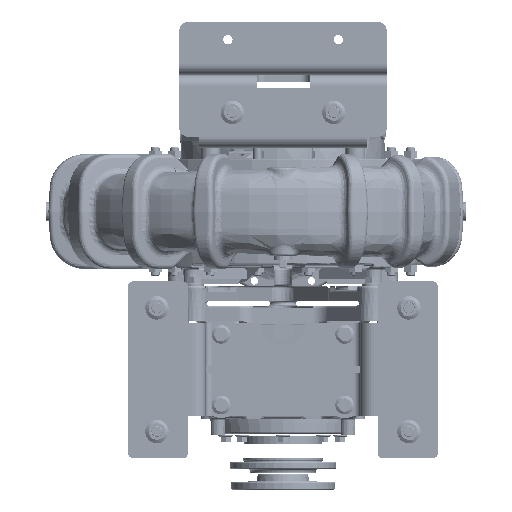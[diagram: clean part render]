
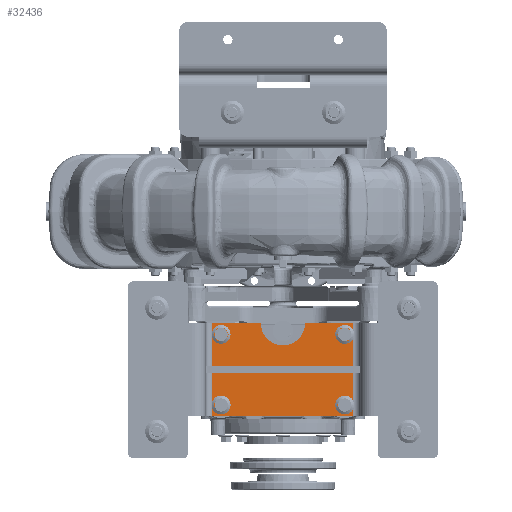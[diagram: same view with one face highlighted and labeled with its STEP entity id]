
A CAD part, front view. The second image highlights one B-rep face of the part: STEP entity #32436.
In plain terms, the highlighted planar face has unit normal (0, -1, 0).
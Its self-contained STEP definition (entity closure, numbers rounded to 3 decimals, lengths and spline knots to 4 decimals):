
#417 = CARTESIAN_POINT ( 'NONE',  ( 3.5, -5.5, -5.63 ) ) ;
#2296 = CIRCLE ( 'NONE', #180487, 0.28 ) ;
#4404 = EDGE_CURVE ( 'NONE', #22713, #160573, #127840, .T. ) ;
#6061 = VERTEX_POINT ( 'NONE', #152544 ) ;
#7007 = CARTESIAN_POINT ( 'NONE',  ( 0., -5.5, -1.005 ) ) ;
#7439 = EDGE_CURVE ( 'NONE', #87144, #57784, #20271, .T. ) ;
#8953 = VERTEX_POINT ( 'NONE', #180697 ) ;
#14128 = ORIENTED_EDGE ( 'NONE', *, *, #79163, .F. ) ;
#14228 = ORIENTED_EDGE ( 'NONE', *, *, #163461, .F. ) ;
#15272 = VERTEX_POINT ( 'NONE', #29730 ) ;
#18949 = DIRECTION ( 'NONE',  ( 0., 0., -1. ) ) ;
#20271 = LINE ( 'NONE', #76005, #79507 ) ;
#22713 = VERTEX_POINT ( 'NONE', #83203 ) ;
#25576 = DIRECTION ( 'NONE',  ( 0., 1., 0. ) ) ;
#29730 = CARTESIAN_POINT ( 'NONE',  ( 3.995, -5.5, -6.255 ) ) ;
#29886 = DIRECTION ( 'NONE',  ( 0., -1., 0. ) ) ;
#30065 = DIRECTION ( 'NONE',  ( 0., -1., 0. ) ) ;
#31226 = CARTESIAN_POINT ( 'NONE',  ( 3.5, -5.5, -1.91 ) ) ;
#31708 = DIRECTION ( 'NONE',  ( 0., -1., 0. ) ) ;
#32436 = ADVANCED_FACE ( 'NONE', ( #57170, #202392, #198964, #39742, #111729 ), #182658, .F. ) ;
#32593 = AXIS2_PLACEMENT_3D ( 'NONE', #52945, #123809, #199317 ) ;
#34644 = CARTESIAN_POINT ( 'NONE',  ( 3.995, -5.5, -1.005 ) ) ;
#34791 = ORIENTED_EDGE ( 'NONE', *, *, #62552, .F. ) ;
#36926 = DIRECTION ( 'NONE',  ( 0., 0., -1. ) ) ;
#37096 = EDGE_CURVE ( 'NONE', #186460, #105479, #228687, .T. ) ;
#39742 = FACE_BOUND ( 'NONE', #164297, .T. ) ;
#41719 = CARTESIAN_POINT ( 'NONE',  ( 1.25, -5.5, -1.005 ) ) ;
#43159 = CARTESIAN_POINT ( 'NONE',  ( 0., -5.5, -3.63 ) ) ;
#43432 = CIRCLE ( 'NONE', #88028, 0.28 ) ;
#44125 = CARTESIAN_POINT ( 'NONE',  ( -3.5, -5.5, -1.63 ) ) ;
#47644 = EDGE_CURVE ( 'NONE', #8953, #81318, #58916, .T. ) ;
#50778 = CARTESIAN_POINT ( 'NONE',  ( 3.5, -5.5, -1.63 ) ) ;
#52022 = CARTESIAN_POINT ( 'NONE',  ( 3.5, -5.5, -5.91 ) ) ;
#52945 = CARTESIAN_POINT ( 'NONE',  ( 3.5, -5.5, -5.63 ) ) ;
#55705 = ORIENTED_EDGE ( 'NONE', *, *, #80776, .F. ) ;
#56860 = EDGE_LOOP ( 'NONE', ( #14228, #57065 ) ) ;
#57065 = ORIENTED_EDGE ( 'NONE', *, *, #4404, .F. ) ;
#57170 = FACE_OUTER_BOUND ( 'NONE', #192894, .T. ) ;
#57784 = VERTEX_POINT ( 'NONE', #225621 ) ;
#58916 = CIRCLE ( 'NONE', #147980, 0.28 ) ;
#60172 = VECTOR ( 'NONE', #191077, 39.3701 ) ;
#62552 = EDGE_CURVE ( 'NONE', #211370, #108269, #95348, .T. ) ;
#62741 = ORIENTED_EDGE ( 'NONE', *, *, #37096, .F. ) ;
#67917 = CARTESIAN_POINT ( 'NONE',  ( -3.5, -5.5, -5.91 ) ) ;
#70231 = ORIENTED_EDGE ( 'NONE', *, *, #85571, .T. ) ;
#72264 = AXIS2_PLACEMENT_3D ( 'NONE', #417, #173642, #228266 ) ;
#75039 = CARTESIAN_POINT ( 'NONE',  ( -3.995, -5.5, -6.255 ) ) ;
#75363 = DIRECTION ( 'NONE',  ( 0., 0., -1. ) ) ;
#76005 = CARTESIAN_POINT ( 'NONE',  ( 1.25, -5.5, -1.005 ) ) ;
#78956 = DIRECTION ( 'NONE',  ( 0., 0., -1. ) ) ;
#78999 = EDGE_LOOP ( 'NONE', ( #108815, #212540 ) ) ;
#79163 = EDGE_CURVE ( 'NONE', #15272, #211370, #192221, .T. ) ;
#79507 = VECTOR ( 'NONE', #178358, 39.3701 ) ;
#80776 = EDGE_CURVE ( 'NONE', #171492, #88931, #156851, .T. ) ;
#81318 = VERTEX_POINT ( 'NONE', #140259 ) ;
#83203 = CARTESIAN_POINT ( 'NONE',  ( 3.5, -5.5, -5.35 ) ) ;
#83382 = ORIENTED_EDGE ( 'NONE', *, *, #127874, .F. ) ;
#84447 = DIRECTION ( 'NONE',  ( 0., 0., -1. ) ) ;
#85571 = EDGE_CURVE ( 'NONE', #87144, #6061, #209488, .T. ) ;
#87144 = VERTEX_POINT ( 'NONE', #41719 ) ;
#88028 = AXIS2_PLACEMENT_3D ( 'NONE', #44125, #153299, #78956 ) ;
#88931 = VERTEX_POINT ( 'NONE', #181897 ) ;
#90379 = EDGE_LOOP ( 'NONE', ( #55705, #148550 ) ) ;
#91993 = CIRCLE ( 'NONE', #32593, 0.28 ) ;
#94310 = DIRECTION ( 'NONE',  ( 0., 0., 1. ) ) ;
#95348 = LINE ( 'NONE', #110497, #175508 ) ;
#99796 = DIRECTION ( 'NONE',  ( 0., 0., -1. ) ) ;
#104946 = AXIS2_PLACEMENT_3D ( 'NONE', #109081, #198597, #75363 ) ;
#105479 = VERTEX_POINT ( 'NONE', #31226 ) ;
#108269 = VERTEX_POINT ( 'NONE', #221168 ) ;
#108815 = ORIENTED_EDGE ( 'NONE', *, *, #47644, .F. ) ;
#109081 = CARTESIAN_POINT ( 'NONE',  ( -3.5, -5.5, -5.63 ) ) ;
#110497 = CARTESIAN_POINT ( 'NONE',  ( -3.995, -5.5, -6.255 ) ) ;
#111729 = FACE_BOUND ( 'NONE', #56860, .T. ) ;
#117116 = EDGE_CURVE ( 'NONE', #57784, #15272, #193880, .T. ) ;
#117909 = ORIENTED_EDGE ( 'NONE', *, *, #117116, .F. ) ;
#120138 = CARTESIAN_POINT ( 'NONE',  ( 3.995, -5.5, -6.255 ) ) ;
#121171 = DIRECTION ( 'NONE',  ( 0., 0., -1. ) ) ;
#123809 = DIRECTION ( 'NONE',  ( 0., -1., 0. ) ) ;
#127070 = CARTESIAN_POINT ( 'NONE',  ( 3.5, -5.5, -1.35 ) ) ;
#127840 = CIRCLE ( 'NONE', #72264, 0.28 ) ;
#127874 = EDGE_CURVE ( 'NONE', #108269, #6061, #174211, .T. ) ;
#130316 = DIRECTION ( 'NONE',  ( 0., 1., 0. ) ) ;
#132496 = DIRECTION ( 'NONE',  ( 1., 0., 0. ) ) ;
#134683 = CARTESIAN_POINT ( 'NONE',  ( -3.5, -5.5, -1.63 ) ) ;
#140259 = CARTESIAN_POINT ( 'NONE',  ( -3.5, -5.5, -1.35 ) ) ;
#146619 = EDGE_CURVE ( 'NONE', #88931, #171492, #2296, .T. ) ;
#147980 = AXIS2_PLACEMENT_3D ( 'NONE', #134683, #30065, #99796 ) ;
#148550 = ORIENTED_EDGE ( 'NONE', *, *, #146619, .F. ) ;
#149098 = EDGE_CURVE ( 'NONE', #81318, #8953, #43432, .T. ) ;
#152544 = CARTESIAN_POINT ( 'NONE',  ( -1.25, -5.5, -1.005 ) ) ;
#153299 = DIRECTION ( 'NONE',  ( 0., -1., 0. ) ) ;
#156294 = ORIENTED_EDGE ( 'NONE', *, *, #167294, .F. ) ;
#156851 = CIRCLE ( 'NONE', #104946, 0.28 ) ;
#160573 = VERTEX_POINT ( 'NONE', #52022 ) ;
#163461 = EDGE_CURVE ( 'NONE', #160573, #22713, #91993, .T. ) ;
#164297 = EDGE_LOOP ( 'NONE', ( #156294, #62741 ) ) ;
#165589 = AXIS2_PLACEMENT_3D ( 'NONE', #200212, #179331, #18949 ) ;
#166127 = CIRCLE ( 'NONE', #192197, 0.28 ) ;
#167064 = VECTOR ( 'NONE', #36926, 39.3701 ) ;
#167294 = EDGE_CURVE ( 'NONE', #105479, #186460, #166127, .T. ) ;
#171492 = VERTEX_POINT ( 'NONE', #67917 ) ;
#173642 = DIRECTION ( 'NONE',  ( 0., -1., 0. ) ) ;
#174211 = LINE ( 'NONE', #209107, #211732 ) ;
#175508 = VECTOR ( 'NONE', #203433, 39.3701 ) ;
#178358 = DIRECTION ( 'NONE',  ( 1., 0., 0. ) ) ;
#179331 = DIRECTION ( 'NONE',  ( 0., -1., 0. ) ) ;
#180487 = AXIS2_PLACEMENT_3D ( 'NONE', #189818, #31708, #121171 ) ;
#180697 = CARTESIAN_POINT ( 'NONE',  ( -3.5, -5.5, -1.91 ) ) ;
#181897 = CARTESIAN_POINT ( 'NONE',  ( -3.5, -5.5, -5.35 ) ) ;
#182658 = PLANE ( 'NONE',  #186795 ) ;
#183581 = AXIS2_PLACEMENT_3D ( 'NONE', #7007, #25576, #132496 ) ;
#186460 = VERTEX_POINT ( 'NONE', #127070 ) ;
#186795 = AXIS2_PLACEMENT_3D ( 'NONE', #43159, #130316, #94310 ) ;
#189818 = CARTESIAN_POINT ( 'NONE',  ( -3.5, -5.5, -5.63 ) ) ;
#191077 = DIRECTION ( 'NONE',  ( -1., 0., 0. ) ) ;
#192197 = AXIS2_PLACEMENT_3D ( 'NONE', #50778, #29886, #84447 ) ;
#192221 = LINE ( 'NONE', #120138, #60172 ) ;
#192809 = DIRECTION ( 'NONE',  ( 1., 0., 0. ) ) ;
#192894 = EDGE_LOOP ( 'NONE', ( #83382, #34791, #14128, #117909, #218792, #70231 ) ) ;
#193880 = LINE ( 'NONE', #34644, #167064 ) ;
#198597 = DIRECTION ( 'NONE',  ( 0., -1., 0. ) ) ;
#198964 = FACE_BOUND ( 'NONE', #90379, .T. ) ;
#199317 = DIRECTION ( 'NONE',  ( 0., 0., -1. ) ) ;
#200212 = CARTESIAN_POINT ( 'NONE',  ( 3.5, -5.5, -1.63 ) ) ;
#202392 = FACE_BOUND ( 'NONE', #78999, .T. ) ;
#203433 = DIRECTION ( 'NONE',  ( 0., 0., 1. ) ) ;
#209107 = CARTESIAN_POINT ( 'NONE',  ( -3.995, -5.5, -1.005 ) ) ;
#209488 = CIRCLE ( 'NONE', #183581, 1.25 ) ;
#211370 = VERTEX_POINT ( 'NONE', #75039 ) ;
#211732 = VECTOR ( 'NONE', #192809, 39.3701 ) ;
#212540 = ORIENTED_EDGE ( 'NONE', *, *, #149098, .F. ) ;
#218792 = ORIENTED_EDGE ( 'NONE', *, *, #7439, .F. ) ;
#221168 = CARTESIAN_POINT ( 'NONE',  ( -3.995, -5.5, -1.005 ) ) ;
#225621 = CARTESIAN_POINT ( 'NONE',  ( 3.995, -5.5, -1.005 ) ) ;
#228266 = DIRECTION ( 'NONE',  ( 0., 0., -1. ) ) ;
#228687 = CIRCLE ( 'NONE', #165589, 0.28 ) ;
